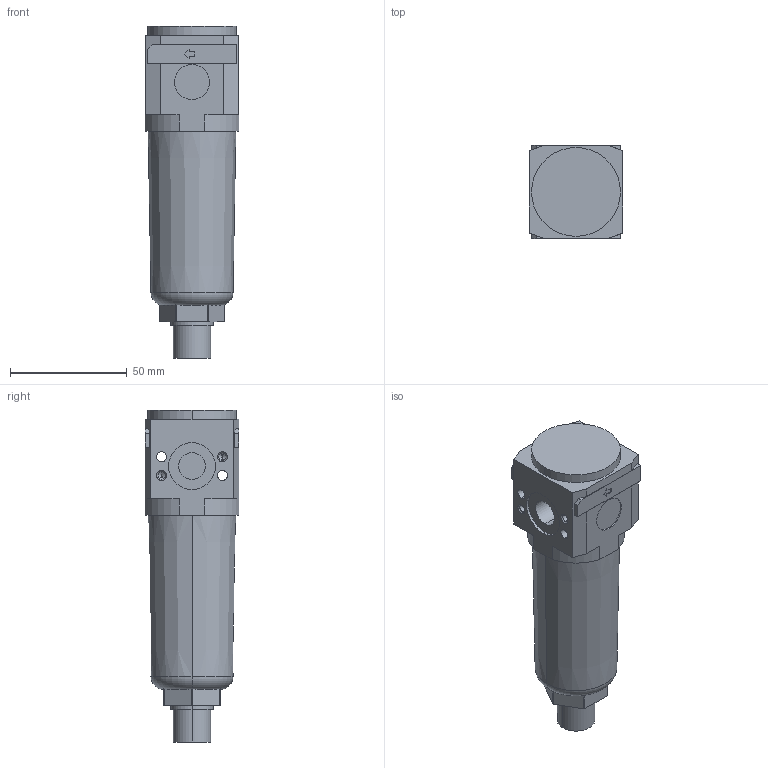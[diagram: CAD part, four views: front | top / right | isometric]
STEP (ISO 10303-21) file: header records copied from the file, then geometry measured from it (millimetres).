
FILE_DESCRIPTION((''),'2;1');
FILE_NAME('I:\DOC-EDP\Lib-3d\FRL\17101B_P.stp','2003-06-16T14:42:55',('maffial1'),(''),'Autodesk Inventor 7','Autodesk Inventor 7','');
FILE_SCHEMA(('AUTOMOTIVE_DESIGN { 1 0 10303 214 1 1 1 1 }'));
Length unit declared in the file: millimetre
Products named in the file (1): 17101B_P
Bounding box: 40 x 40 x 142 mm (x, y, z)
Volume: 143964.1 mm3; surface area: 25253.3 mm2
Topology: 1 solids, 3 shells, 159 faces, 390 edges, 248 vertices
Faces by surface type: bspline 55, plane 54, cylinder 38, cone 10, torus 2
Entity records: 5073 total; most frequent: CARTESIAN_POINT 1407, ORIENTED_EDGE 764, DIRECTION 720, EDGE_CURVE 382, VERTEX_POINT 248, VECTOR 242, LINE 242, AXIS2_PLACEMENT_3D 239
